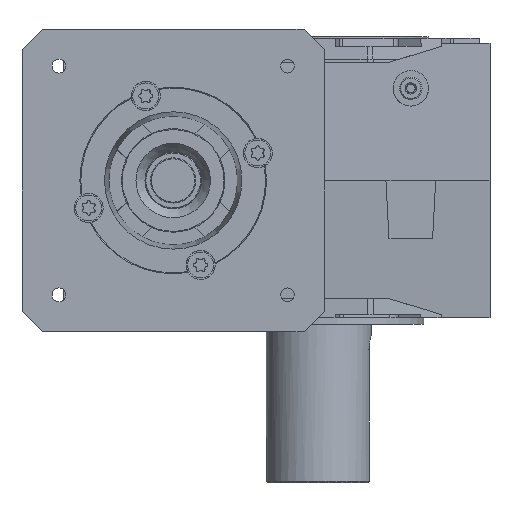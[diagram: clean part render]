
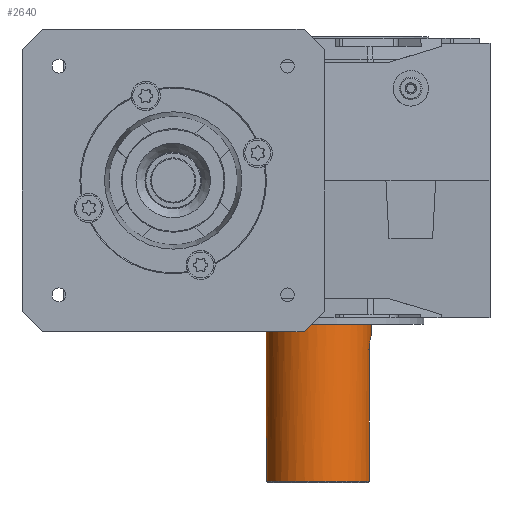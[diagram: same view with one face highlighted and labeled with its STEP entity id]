
A CAD part, left-side view. The second image highlights one B-rep face of the part: STEP entity #2640.
In plain terms, the highlighted cylindrical face has radius 32.5 mm (diameter 65 mm), a full revolution.
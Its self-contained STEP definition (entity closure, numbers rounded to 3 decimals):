
#2640 = ADVANCED_FACE( '', ( #5574, #5575 ), #5576, .T. );
#5574 = FACE_OUTER_BOUND( '', #9937, .T. );
#5575 = FACE_OUTER_BOUND( '', #9938, .T. );
#5576 = CYLINDRICAL_SURFACE( '', #9939, 32.5 );
#9937 = EDGE_LOOP( '', ( #19516 ) );
#9938 = EDGE_LOOP( '', ( #19517, #19518, #19519, #19520 ) );
#9939 = AXIS2_PLACEMENT_3D( '', #19521, #19522, #19523 );
#19516 = ORIENTED_EDGE( '', *, *, #25906, .T. );
#19517 = ORIENTED_EDGE( '', *, *, #25907, .F. );
#19518 = ORIENTED_EDGE( '', *, *, #25908, .T. );
#19519 = ORIENTED_EDGE( '', *, *, #25909, .F. );
#19520 = ORIENTED_EDGE( '', *, *, #25910, .F. );
#19521 = CARTESIAN_POINT( '', ( 0., 0., -187. ) );
#19522 = DIRECTION( '', ( 0., 0., -1. ) );
#19523 = DIRECTION( '', ( 1., 0., 0. ) );
#25906 = EDGE_CURVE( '', #31147, #31147, #31148, .T. );
#25907 = EDGE_CURVE( '', #31149, #31150, #31151, .T. );
#25908 = EDGE_CURVE( '', #31149, #31152, #31153, .F. );
#25909 = EDGE_CURVE( '', #31154, #31152, #31155, .F. );
#25910 = EDGE_CURVE( '', #31150, #31154, #31156, .T. );
#31147 = VERTEX_POINT( '', #41697 );
#31148 = CIRCLE( '', #41698, 32.5 );
#31149 = VERTEX_POINT( '', #41699 );
#31150 = VERTEX_POINT( '', #41700 );
#31151 = LINE( '', #41701, #41702 );
#31152 = VERTEX_POINT( '', #41703 );
#31153 = CIRCLE( '', #41704, 32.5 );
#31154 = VERTEX_POINT( '', #41705 );
#31155 = LINE( '', #41706, #41707 );
#31156 = B_SPLINE_CURVE_WITH_KNOTS( '', 3, ( #41708, #41709, #41710, #41711, #41712, #41713, #41714, #41715, #41716, #41717, #41718, #41719, #41720, #41721, #41722, #41723, #41724, #41725, #41726, #41727, #41728, #41729, #41730, #41731, #41732, #41733, #41734, #41735, #41736, #41737, #41738, #41739, #41740, #41741, #41742, #41743, #41744, #41745, #41746, #41747, #41748, #41749, #41750, #41751, #41752, #41753 ), .UNSPECIFIED., .F., .F., ( 4, 2, 2, 2, 2, 2, 2, 2, 2, 2, 2, 2, 2, 2, 2, 2, 2, 2, 2, 2, 2, 2, 4 ), ( 0., 0.002, 0.003, 0.004, 0.005, 0.006, 0.007, 0.009, 0.011, 0.011, 0.012, 0.014, 0.016, 0.018, 0.019, 0.019, 0.02, 0.021, 0.023, 0.025, 0.027, 0.027, 0.028 ), .UNSPECIFIED. );
#41697 = CARTESIAN_POINT( '', ( 0., 32.5, -87. ) );
#41698 = AXIS2_PLACEMENT_3D( '', #49078, #49079, #49080 );
#41699 = CARTESIAN_POINT( '', ( 9., -31.229, -186. ) );
#41700 = CARTESIAN_POINT( '', ( 9., -31.229, -104.8 ) );
#41701 = CARTESIAN_POINT( '', ( 9., -31.229, -187. ) );
#41702 = VECTOR( '', #49081, 1000. );
#41703 = CARTESIAN_POINT( '', ( -9., -31.229, -186. ) );
#41704 = AXIS2_PLACEMENT_3D( '', #49082, #49083, #49084 );
#41705 = CARTESIAN_POINT( '', ( -9., -31.229, -104.8 ) );
#41706 = CARTESIAN_POINT( '', ( -9., -31.229, -187. ) );
#41707 = VECTOR( '', #49085, 1000. );
#41708 = CARTESIAN_POINT( '', ( 9., -31.229, -104.8 ) );
#41709 = CARTESIAN_POINT( '', ( 9., -31.229, -104.202 ) );
#41710 = CARTESIAN_POINT( '', ( 8.941, -31.246, -103.615 ) );
#41711 = CARTESIAN_POINT( '', ( 8.768, -31.295, -102.75 ) );
#41712 = CARTESIAN_POINT( '', ( 8.697, -31.315, -102.464 ) );
#41713 = CARTESIAN_POINT( '', ( 8.524, -31.362, -101.897 ) );
#41714 = CARTESIAN_POINT( '', ( 8.423, -31.39, -101.616 ) );
#41715 = CARTESIAN_POINT( '', ( 8.084, -31.479, -100.8 ) );
#41716 = CARTESIAN_POINT( '', ( 7.807, -31.55, -100.285 ) );
#41717 = CARTESIAN_POINT( '', ( 7.318, -31.666, -99.553 ) );
#41718 = CARTESIAN_POINT( '', ( 7.141, -31.706, -99.315 ) );
#41719 = CARTESIAN_POINT( '', ( 6.767, -31.788, -98.859 ) );
#41720 = CARTESIAN_POINT( '', ( 6.571, -31.83, -98.643 ) );
#41721 = CARTESIAN_POINT( '', ( 5.951, -31.953, -98.023 ) );
#41722 = CARTESIAN_POINT( '', ( 5.5, -32.035, -97.652 ) );
#41723 = CARTESIAN_POINT( '', ( 4.518, -32.188, -96.994 ) );
#41724 = CARTESIAN_POINT( '', ( 3.999, -32.258, -96.716 ) );
#41725 = CARTESIAN_POINT( '', ( 3.188, -32.344, -96.378 ) );
#41726 = CARTESIAN_POINT( '', ( 2.912, -32.371, -96.279 ) );
#41727 = CARTESIAN_POINT( '', ( 2.347, -32.416, -96.106 ) );
#41728 = CARTESIAN_POINT( '', ( 2.057, -32.436, -96.033 ) );
#41729 = CARTESIAN_POINT( '', ( 1.184, -32.484, -95.859 ) );
#41730 = CARTESIAN_POINT( '', ( 0.599, -32.5, -95.801 ) );
#41731 = CARTESIAN_POINT( '', ( -0.582, -32.5, -95.799 ) );
#41732 = CARTESIAN_POINT( '', ( -1.181, -32.484, -95.858 ) );
#41733 = CARTESIAN_POINT( '', ( -2.338, -32.421, -96.089 ) );
#41734 = CARTESIAN_POINT( '', ( -2.9, -32.375, -96.26 ) );
#41735 = CARTESIAN_POINT( '', ( -3.72, -32.288, -96.6 ) );
#41736 = CARTESIAN_POINT( '', ( -3.989, -32.255, -96.727 ) );
#41737 = CARTESIAN_POINT( '', ( -4.508, -32.187, -97.005 ) );
#41738 = CARTESIAN_POINT( '', ( -4.759, -32.151, -97.156 ) );
#41739 = CARTESIAN_POINT( '', ( -5.245, -32.075, -97.48 ) );
#41740 = CARTESIAN_POINT( '', ( -5.48, -32.036, -97.655 ) );
#41741 = CARTESIAN_POINT( '', ( -5.934, -31.955, -98.027 ) );
#41742 = CARTESIAN_POINT( '', ( -6.154, -31.913, -98.226 ) );
#41743 = CARTESIAN_POINT( '', ( -6.778, -31.788, -98.85 ) );
#41744 = CARTESIAN_POINT( '', ( -7.148, -31.706, -99.3 ) );
#41745 = CARTESIAN_POINT( '', ( -7.8, -31.552, -100.272 ) );
#41746 = CARTESIAN_POINT( '', ( -8.083, -31.48, -100.799 ) );
#41747 = CARTESIAN_POINT( '', ( -8.535, -31.36, -101.884 ) );
#41748 = CARTESIAN_POINT( '', ( -8.706, -31.312, -102.444 ) );
#41749 = CARTESIAN_POINT( '', ( -8.881, -31.263, -103.314 ) );
#41750 = CARTESIAN_POINT( '', ( -8.926, -31.25, -103.61 ) );
#41751 = CARTESIAN_POINT( '', ( -8.985, -31.233, -104.203 ) );
#41752 = CARTESIAN_POINT( '', ( -9., -31.229, -104.501 ) );
#41753 = CARTESIAN_POINT( '', ( -9., -31.229, -104.8 ) );
#49078 = CARTESIAN_POINT( '', ( 0., 0., -87. ) );
#49079 = DIRECTION( '', ( 0., 0., -1. ) );
#49080 = DIRECTION( '', ( 0., 1., 0. ) );
#49081 = DIRECTION( '', ( 0., 0., 1. ) );
#49082 = CARTESIAN_POINT( '', ( 0., 0., -186. ) );
#49083 = DIRECTION( '', ( 0., 0., -1. ) );
#49084 = DIRECTION( '', ( -1., 0., 0. ) );
#49085 = DIRECTION( '', ( 0., 0., 1. ) );
